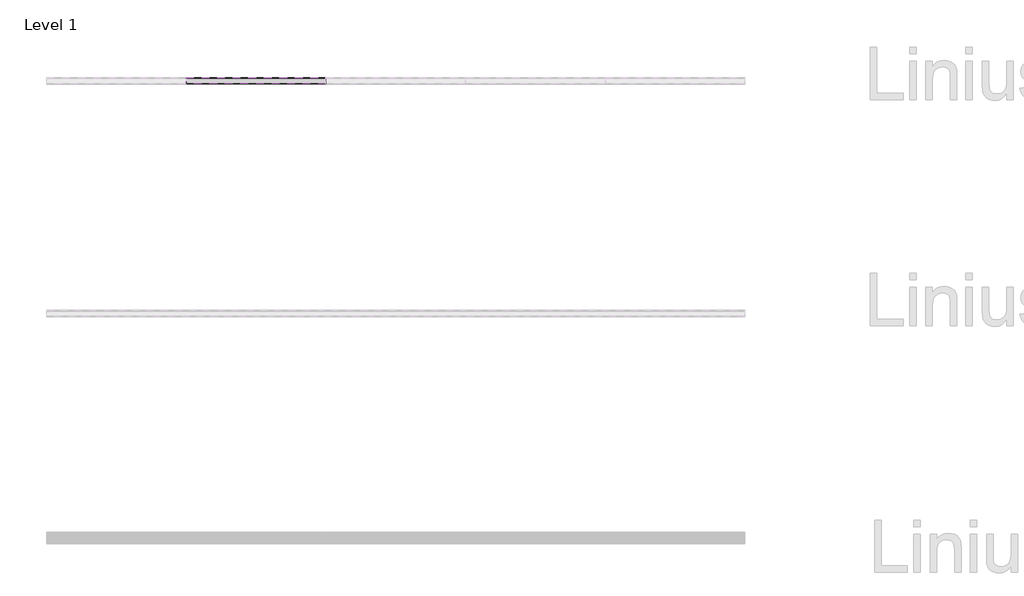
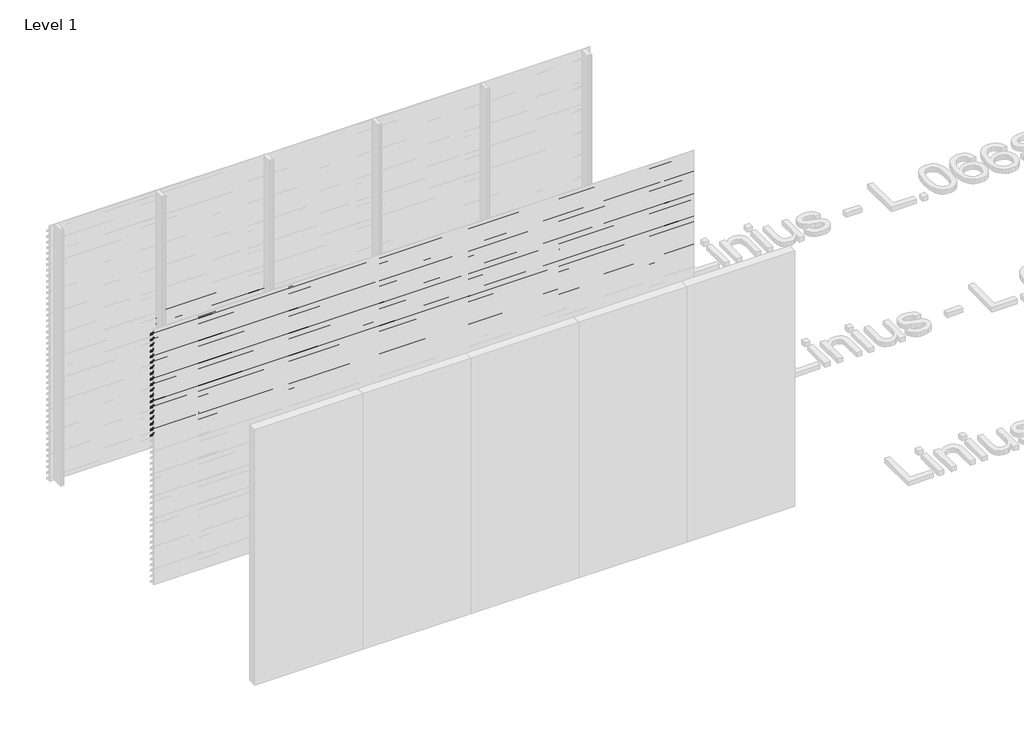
# One storey, part 126 of 540: 43 proxies.
"""IFC4 building model written with IfcOpenShell, lengths in millimetres."""

from ifc_helpers import new_model, si_unit, point, frame, frame_2d, origin, place, context, project, spatial, polyline, circle_curve, trimmed, segment, composite_curve, outline, extrude, element, save

model = new_model("IFC4")

# Units and contexts
model_context = context("Model", 3, world=origin())
ifc_project = project(units=[si_unit("LENGTHUNIT", "METRE", prefix="MILLI")], contexts=[model_context])

# Site, building, storey
site = spatial("IfcSite", under=ifc_project)
building = spatial("IfcBuilding", under=site)
storey = spatial("IfcBuildingStorey", under=building, Name="Level 1", Elevation=0.0)

# Proxies
placement = place(None, origin())
element("IfcBuildingElementProxy", 1, Name="Wall Sweeps", at=placement, inside=storey, context=model_context, shape_type="SweptSolid", body=[
    extrude(outline(composite_curve([segment(trimmed(circle_curve(frame_2d((14013.609548, 1513.7676769)), 26.4944656), [point((14030.5717655, 1534.1205608))], [point((14040.0540136, 1515.3946208))], False, "CARTESIAN"), True, "CONTINUOUS"), segment(polyline([(14040.0540136, 1515.3946208), (14040.0540136, 1507.5), (14038.8040136, 1508.2216933), (14038.8040136, 1513.7676769)]), True, "CONTINUOUS"), segment(trimmed(circle_curve(frame_2d((14013.609548, 1513.7676769)), 25.1944656), [point((14038.8040136, 1513.7676769))], [point((14029.7815085, 1533.086807))], True, "CARTESIAN"), True, "CONTINUOUS"), segment(polyline([(14029.7815085, 1533.086807), (13985.0540136, 1564.3158044), (13985.0540136, 1584.0), (13986.3040136, 1584.0), (13986.3040136, 1565.0285629), (14030.5717655, 1534.1205608)]), True, "CONTINUOUS")], self_intersect=False)), frame((90666.6208099, 0.0, 0.0), z_axis=(1.0, 0.0, 0.0), x_axis=(0.0, 1.0, 0.0)), (0.0, 0.0, 1.0), 1199.9999999),
])
element("IfcBuildingElementProxy", 2, Name="Wall Sweeps", at=placement, inside=storey, context=model_context, shape_type="SweptSolid", body=[
    extrude(outline(composite_curve([segment(trimmed(circle_curve(frame_2d((14013.609548, 1447.7676769)), 26.4944656), [point((14030.5717655, 1468.1205608))], [point((14040.0540136, 1449.3946208))], False, "CARTESIAN"), True, "CONTINUOUS"), segment(polyline([(14040.0540136, 1449.3946208), (14040.0540136, 1441.5), (14038.8040136, 1442.2216933), (14038.8040136, 1447.7676769)]), True, "CONTINUOUS"), segment(trimmed(circle_curve(frame_2d((14013.609548, 1447.7676769)), 25.1944656), [point((14038.8040136, 1447.7676769))], [point((14029.7815085, 1467.086807))], True, "CARTESIAN"), True, "CONTINUOUS"), segment(polyline([(14029.7815085, 1467.086807), (13985.0540136, 1498.3158044), (13985.0540136, 1518.0), (13986.3040136, 1518.0), (13986.3040136, 1499.0285629), (14030.5717655, 1468.1205608)]), True, "CONTINUOUS")], self_intersect=False)), frame((90666.6208099, 0.0, 0.0), z_axis=(1.0, 0.0, 0.0), x_axis=(0.0, 1.0, 0.0)), (0.0, 0.0, 1.0), 1199.9999999),
])
element("IfcBuildingElementProxy", 3, Name="Wall Sweeps", at=placement, inside=storey, context=model_context, shape_type="SweptSolid", body=[
    extrude(outline(composite_curve([segment(trimmed(circle_curve(frame_2d((14013.609548, 1381.7676769)), 26.4944656), [point((14030.5717655, 1402.1205608))], [point((14040.0540136, 1383.3946208))], False, "CARTESIAN"), True, "CONTINUOUS"), segment(polyline([(14040.0540136, 1383.3946208), (14040.0540136, 1375.5), (14038.8040136, 1376.2216933), (14038.8040136, 1381.7676769)]), True, "CONTINUOUS"), segment(trimmed(circle_curve(frame_2d((14013.609548, 1381.7676769)), 25.1944656), [point((14038.8040136, 1381.7676769))], [point((14029.7815085, 1401.086807))], True, "CARTESIAN"), True, "CONTINUOUS"), segment(polyline([(14029.7815085, 1401.086807), (13985.0540136, 1432.3158044), (13985.0540136, 1452.0), (13986.3040136, 1452.0), (13986.3040136, 1433.0285629), (14030.5717655, 1402.1205608)]), True, "CONTINUOUS")], self_intersect=False)), frame((90666.6208099, 0.0, 0.0), z_axis=(1.0, 0.0, 0.0), x_axis=(0.0, 1.0, 0.0)), (0.0, 0.0, 1.0), 1199.9999999),
])
element("IfcBuildingElementProxy", 4, Name="Wall Sweeps", at=placement, inside=storey, context=model_context, shape_type="SweptSolid", body=[
    extrude(outline(composite_curve([segment(trimmed(circle_curve(frame_2d((14013.609548, 1315.7676769)), 26.4944656), [point((14030.5717655, 1336.1205608))], [point((14040.0540136, 1317.3946208))], False, "CARTESIAN"), True, "CONTINUOUS"), segment(polyline([(14040.0540136, 1317.3946208), (14040.0540136, 1309.5), (14038.8040136, 1310.2216933), (14038.8040136, 1315.7676769)]), True, "CONTINUOUS"), segment(trimmed(circle_curve(frame_2d((14013.609548, 1315.7676769)), 25.1944656), [point((14038.8040136, 1315.7676769))], [point((14029.7815085, 1335.086807))], True, "CARTESIAN"), True, "CONTINUOUS"), segment(polyline([(14029.7815085, 1335.086807), (13985.0540136, 1366.3158044), (13985.0540136, 1386.0), (13986.3040136, 1386.0), (13986.3040136, 1367.0285629), (14030.5717655, 1336.1205608)]), True, "CONTINUOUS")], self_intersect=False)), frame((90666.6208099, 0.0, 0.0), z_axis=(1.0, 0.0, 0.0), x_axis=(0.0, 1.0, 0.0)), (0.0, 0.0, 1.0), 1199.9999999),
])
element("IfcBuildingElementProxy", 5, Name="Wall Sweeps", at=placement, inside=storey, context=model_context, shape_type="SweptSolid", body=[
    extrude(outline(composite_curve([segment(trimmed(circle_curve(frame_2d((14013.609548, 1249.7676769)), 26.4944656), [point((14030.5717655, 1270.1205608))], [point((14040.0540136, 1251.3946208))], False, "CARTESIAN"), True, "CONTINUOUS"), segment(polyline([(14040.0540136, 1251.3946208), (14040.0540136, 1243.5), (14038.8040136, 1244.2216933), (14038.8040136, 1249.7676769)]), True, "CONTINUOUS"), segment(trimmed(circle_curve(frame_2d((14013.609548, 1249.7676769)), 25.1944656), [point((14038.8040136, 1249.7676769))], [point((14029.7815085, 1269.086807))], True, "CARTESIAN"), True, "CONTINUOUS"), segment(polyline([(14029.7815085, 1269.086807), (13985.0540136, 1300.3158044), (13985.0540136, 1320.0), (13986.3040136, 1320.0), (13986.3040136, 1301.0285629), (14030.5717655, 1270.1205608)]), True, "CONTINUOUS")], self_intersect=False)), frame((90666.6208099, 0.0, 0.0), z_axis=(1.0, 0.0, 0.0), x_axis=(0.0, 1.0, 0.0)), (0.0, 0.0, 1.0), 1199.9999999),
])
element("IfcBuildingElementProxy", 6, Name="Wall Sweeps", at=placement, inside=storey, context=model_context, shape_type="SweptSolid", body=[
    extrude(outline(composite_curve([segment(trimmed(circle_curve(frame_2d((14013.609548, 1183.7676769)), 26.4944656), [point((14030.5717655, 1204.1205608))], [point((14040.0540136, 1185.3946208))], False, "CARTESIAN"), True, "CONTINUOUS"), segment(polyline([(14040.0540136, 1185.3946208), (14040.0540136, 1177.5), (14038.8040136, 1178.2216933), (14038.8040136, 1183.7676769)]), True, "CONTINUOUS"), segment(trimmed(circle_curve(frame_2d((14013.609548, 1183.7676769)), 25.1944656), [point((14038.8040136, 1183.7676769))], [point((14029.7815085, 1203.086807))], True, "CARTESIAN"), True, "CONTINUOUS"), segment(polyline([(14029.7815085, 1203.086807), (13985.0540136, 1234.3158044), (13985.0540136, 1254.0), (13986.3040136, 1254.0), (13986.3040136, 1235.0285629), (14030.5717655, 1204.1205608)]), True, "CONTINUOUS")], self_intersect=False)), frame((90666.6208099, 0.0, 0.0), z_axis=(1.0, 0.0, 0.0), x_axis=(0.0, 1.0, 0.0)), (0.0, 0.0, 1.0), 1199.9999999),
])
element("IfcBuildingElementProxy", 7, Name="Wall Sweeps", at=placement, inside=storey, context=model_context, shape_type="SweptSolid", body=[
    extrude(outline(composite_curve([segment(trimmed(circle_curve(frame_2d((14013.609548, 1117.7676769)), 26.4944656), [point((14030.5717655, 1138.1205608))], [point((14040.0540136, 1119.3946208))], False, "CARTESIAN"), True, "CONTINUOUS"), segment(polyline([(14040.0540136, 1119.3946208), (14040.0540136, 1111.5), (14038.8040136, 1112.2216933), (14038.8040136, 1117.7676769)]), True, "CONTINUOUS"), segment(trimmed(circle_curve(frame_2d((14013.609548, 1117.7676769)), 25.1944656), [point((14038.8040136, 1117.7676769))], [point((14029.7815085, 1137.086807))], True, "CARTESIAN"), True, "CONTINUOUS"), segment(polyline([(14029.7815085, 1137.086807), (13985.0540136, 1168.3158044), (13985.0540136, 1188.0), (13986.3040136, 1188.0), (13986.3040136, 1169.0285629), (14030.5717655, 1138.1205608)]), True, "CONTINUOUS")], self_intersect=False)), frame((90666.6208099, 0.0, 0.0), z_axis=(1.0, 0.0, 0.0), x_axis=(0.0, 1.0, 0.0)), (0.0, 0.0, 1.0), 1199.9999999),
])
element("IfcBuildingElementProxy", 8, Name="Wall Sweeps", at=placement, inside=storey, context=model_context, shape_type="SweptSolid", body=[
    extrude(outline(composite_curve([segment(trimmed(circle_curve(frame_2d((14013.609548, 1051.7676769)), 26.4944656), [point((14030.5717655, 1072.1205608))], [point((14040.0540136, 1053.3946208))], False, "CARTESIAN"), True, "CONTINUOUS"), segment(polyline([(14040.0540136, 1053.3946208), (14040.0540136, 1045.5), (14038.8040136, 1046.2216933), (14038.8040136, 1051.7676769)]), True, "CONTINUOUS"), segment(trimmed(circle_curve(frame_2d((14013.609548, 1051.7676769)), 25.1944656), [point((14038.8040136, 1051.7676769))], [point((14029.7815085, 1071.086807))], True, "CARTESIAN"), True, "CONTINUOUS"), segment(polyline([(14029.7815085, 1071.086807), (13985.0540136, 1102.3158044), (13985.0540136, 1122.0), (13986.3040136, 1122.0), (13986.3040136, 1103.0285629), (14030.5717655, 1072.1205608)]), True, "CONTINUOUS")], self_intersect=False)), frame((90666.6208099, 0.0, 0.0), z_axis=(1.0, 0.0, 0.0), x_axis=(0.0, 1.0, 0.0)), (0.0, 0.0, 1.0), 1199.9999999),
])
element("IfcBuildingElementProxy", 9, Name="Wall Sweeps", at=placement, inside=storey, context=model_context, shape_type="SweptSolid", body=[
    extrude(outline(composite_curve([segment(trimmed(circle_curve(frame_2d((14013.609548, 985.7676769)), 26.4944656), [point((14030.5717655, 1006.1205608))], [point((14040.0540136, 987.3946208))], False, "CARTESIAN"), True, "CONTINUOUS"), segment(polyline([(14040.0540136, 987.3946208), (14040.0540136, 979.5), (14038.8040136, 980.2216933), (14038.8040136, 985.7676769)]), True, "CONTINUOUS"), segment(trimmed(circle_curve(frame_2d((14013.609548, 985.7676769)), 25.1944656), [point((14038.8040136, 985.7676769))], [point((14029.7815085, 1005.086807))], True, "CARTESIAN"), True, "CONTINUOUS"), segment(polyline([(14029.7815085, 1005.086807), (13985.0540136, 1036.3158044), (13985.0540136, 1056.0), (13986.3040136, 1056.0), (13986.3040136, 1037.0285629), (14030.5717655, 1006.1205608)]), True, "CONTINUOUS")], self_intersect=False)), frame((90666.6208099, 0.0, 0.0), z_axis=(1.0, 0.0, 0.0), x_axis=(0.0, 1.0, 0.0)), (0.0, 0.0, 1.0), 1199.9999999),
])
element("IfcBuildingElementProxy", 10, Name="Wall Sweeps", at=placement, inside=storey, context=model_context, shape_type="SweptSolid", body=[
    extrude(outline(composite_curve([segment(trimmed(circle_curve(frame_2d((14013.609548, 919.7676769)), 26.4944656), [point((14030.5717655, 940.1205608))], [point((14040.0540136, 921.3946208))], False, "CARTESIAN"), True, "CONTINUOUS"), segment(polyline([(14040.0540136, 921.3946208), (14040.0540136, 913.5), (14038.8040136, 914.2216933), (14038.8040136, 919.7676769)]), True, "CONTINUOUS"), segment(trimmed(circle_curve(frame_2d((14013.609548, 919.7676769)), 25.1944656), [point((14038.8040136, 919.7676769))], [point((14029.7815085, 939.086807))], True, "CARTESIAN"), True, "CONTINUOUS"), segment(polyline([(14029.7815085, 939.086807), (13985.0540136, 970.3158044), (13985.0540136, 990.0), (13986.3040136, 990.0), (13986.3040136, 971.0285629), (14030.5717655, 940.1205608)]), True, "CONTINUOUS")], self_intersect=False)), frame((90666.6208099, 0.0, 0.0), z_axis=(1.0, 0.0, 0.0), x_axis=(0.0, 1.0, 0.0)), (0.0, 0.0, 1.0), 1199.9999999),
])
element("IfcBuildingElementProxy", 11, Name="Wall Sweeps", at=placement, inside=storey, context=model_context, shape_type="SweptSolid", body=[
    extrude(outline(composite_curve([segment(trimmed(circle_curve(frame_2d((14013.609548, 853.7676769)), 26.4944656), [point((14030.5717655, 874.1205608))], [point((14040.0540136, 855.3946208))], False, "CARTESIAN"), True, "CONTINUOUS"), segment(polyline([(14040.0540136, 855.3946208), (14040.0540136, 847.5), (14038.8040136, 848.2216933), (14038.8040136, 853.7676769)]), True, "CONTINUOUS"), segment(trimmed(circle_curve(frame_2d((14013.609548, 853.7676769)), 25.1944656), [point((14038.8040136, 853.7676769))], [point((14029.7815085, 873.086807))], True, "CARTESIAN"), True, "CONTINUOUS"), segment(polyline([(14029.7815085, 873.086807), (13985.0540136, 904.3158044), (13985.0540136, 924.0), (13986.3040136, 924.0), (13986.3040136, 905.0285629), (14030.5717655, 874.1205608)]), True, "CONTINUOUS")], self_intersect=False)), frame((90666.6208099, 0.0, 0.0), z_axis=(1.0, 0.0, 0.0), x_axis=(0.0, 1.0, 0.0)), (0.0, 0.0, 1.0), 1199.9999999),
])
element("IfcBuildingElementProxy", 12, Name="Wall Sweeps", at=placement, inside=storey, context=model_context, shape_type="SweptSolid", body=[
    extrude(outline(composite_curve([segment(trimmed(circle_curve(frame_2d((14013.609548, 787.7676769)), 26.4944656), [point((14030.5717655, 808.1205608))], [point((14040.0540136, 789.3946208))], False, "CARTESIAN"), True, "CONTINUOUS"), segment(polyline([(14040.0540136, 789.3946208), (14040.0540136, 781.5), (14038.8040136, 782.2216933), (14038.8040136, 787.7676769)]), True, "CONTINUOUS"), segment(trimmed(circle_curve(frame_2d((14013.609548, 787.7676769)), 25.1944656), [point((14038.8040136, 787.7676769))], [point((14029.7815085, 807.086807))], True, "CARTESIAN"), True, "CONTINUOUS"), segment(polyline([(14029.7815085, 807.086807), (13985.0540136, 838.3158044), (13985.0540136, 858.0), (13986.3040136, 858.0), (13986.3040136, 839.0285629), (14030.5717655, 808.1205608)]), True, "CONTINUOUS")], self_intersect=False)), frame((90666.6208099, 0.0, 0.0), z_axis=(1.0, 0.0, 0.0), x_axis=(0.0, 1.0, 0.0)), (0.0, 0.0, 1.0), 1199.9999999),
])
element("IfcBuildingElementProxy", 13, Name="Wall Sweeps", at=placement, inside=storey, context=model_context, shape_type="SweptSolid", body=[
    extrude(outline(composite_curve([segment(trimmed(circle_curve(frame_2d((14013.609548, 721.7676769)), 26.4944656), [point((14030.5717655, 742.1205608))], [point((14040.0540136, 723.3946208))], False, "CARTESIAN"), True, "CONTINUOUS"), segment(polyline([(14040.0540136, 723.3946208), (14040.0540136, 715.5), (14038.8040136, 716.2216933), (14038.8040136, 721.7676769)]), True, "CONTINUOUS"), segment(trimmed(circle_curve(frame_2d((14013.609548, 721.7676769)), 25.1944656), [point((14038.8040136, 721.7676769))], [point((14029.7815085, 741.086807))], True, "CARTESIAN"), True, "CONTINUOUS"), segment(polyline([(14029.7815085, 741.086807), (13985.0540136, 772.3158044), (13985.0540136, 792.0), (13986.3040136, 792.0), (13986.3040136, 773.0285629), (14030.5717655, 742.1205608)]), True, "CONTINUOUS")], self_intersect=False)), frame((90666.6208099, 0.0, 0.0), z_axis=(1.0, 0.0, 0.0), x_axis=(0.0, 1.0, 0.0)), (0.0, 0.0, 1.0), 1199.9999999),
])
element("IfcBuildingElementProxy", 14, Name="Wall Sweeps", at=placement, inside=storey, context=model_context, shape_type="SweptSolid", body=[
    extrude(outline(composite_curve([segment(trimmed(circle_curve(frame_2d((14013.609548, 655.7676769)), 26.4944656), [point((14030.5717655, 676.1205608))], [point((14040.0540136, 657.3946208))], False, "CARTESIAN"), True, "CONTINUOUS"), segment(polyline([(14040.0540136, 657.3946208), (14040.0540136, 649.5), (14038.8040136, 650.2216933), (14038.8040136, 655.7676769)]), True, "CONTINUOUS"), segment(trimmed(circle_curve(frame_2d((14013.609548, 655.7676769)), 25.1944656), [point((14038.8040136, 655.7676769))], [point((14029.7815085, 675.086807))], True, "CARTESIAN"), True, "CONTINUOUS"), segment(polyline([(14029.7815085, 675.086807), (13985.0540136, 706.3158044), (13985.0540136, 726.0), (13986.3040136, 726.0), (13986.3040136, 707.0285629), (14030.5717655, 676.1205608)]), True, "CONTINUOUS")], self_intersect=False)), frame((90666.6208099, 0.0, 0.0), z_axis=(1.0, 0.0, 0.0), x_axis=(0.0, 1.0, 0.0)), (0.0, 0.0, 1.0), 1199.9999999),
])
element("IfcBuildingElementProxy", 15, Name="Wall Sweeps", at=placement, inside=storey, context=model_context, shape_type="SweptSolid", body=[
    extrude(outline(composite_curve([segment(trimmed(circle_curve(frame_2d((14013.609548, 589.7676769)), 26.4944656), [point((14030.5717655, 610.1205608))], [point((14040.0540136, 591.3946208))], False, "CARTESIAN"), True, "CONTINUOUS"), segment(polyline([(14040.0540136, 591.3946208), (14040.0540136, 583.5), (14038.8040136, 584.2216933), (14038.8040136, 589.7676769)]), True, "CONTINUOUS"), segment(trimmed(circle_curve(frame_2d((14013.609548, 589.7676769)), 25.1944656), [point((14038.8040136, 589.7676769))], [point((14029.7815085, 609.086807))], True, "CARTESIAN"), True, "CONTINUOUS"), segment(polyline([(14029.7815085, 609.086807), (13985.0540136, 640.3158044), (13985.0540136, 660.0), (13986.3040136, 660.0), (13986.3040136, 641.0285629), (14030.5717655, 610.1205608)]), True, "CONTINUOUS")], self_intersect=False)), frame((90666.6208099, 0.0, 0.0), z_axis=(1.0, 0.0, 0.0), x_axis=(0.0, 1.0, 0.0)), (0.0, 0.0, 1.0), 1199.9999999),
])
element("IfcBuildingElementProxy", 16, Name="Wall Sweeps", at=placement, inside=storey, context=model_context, shape_type="SweptSolid", body=[
    extrude(outline(composite_curve([segment(trimmed(circle_curve(frame_2d((14013.609548, 523.7676769)), 26.4944656), [point((14030.5717655, 544.1205608))], [point((14040.0540136, 525.3946208))], False, "CARTESIAN"), True, "CONTINUOUS"), segment(polyline([(14040.0540136, 525.3946208), (14040.0540136, 517.5), (14038.8040136, 518.2216933), (14038.8040136, 523.7676769)]), True, "CONTINUOUS"), segment(trimmed(circle_curve(frame_2d((14013.609548, 523.7676769)), 25.1944656), [point((14038.8040136, 523.7676769))], [point((14029.7815085, 543.086807))], True, "CARTESIAN"), True, "CONTINUOUS"), segment(polyline([(14029.7815085, 543.086807), (13985.0540136, 574.3158044), (13985.0540136, 594.0), (13986.3040136, 594.0), (13986.3040136, 575.0285629), (14030.5717655, 544.1205608)]), True, "CONTINUOUS")], self_intersect=False)), frame((90666.6208099, 0.0, 0.0), z_axis=(1.0, 0.0, 0.0), x_axis=(0.0, 1.0, 0.0)), (0.0, 0.0, 1.0), 1199.9999999),
])
element("IfcBuildingElementProxy", 17, Name="Wall Sweeps", at=placement, inside=storey, context=model_context, shape_type="SweptSolid", body=[
    extrude(outline(composite_curve([segment(trimmed(circle_curve(frame_2d((14013.609548, 457.7676769)), 26.4944656), [point((14030.5717655, 478.1205608))], [point((14040.0540136, 459.3946208))], False, "CARTESIAN"), True, "CONTINUOUS"), segment(polyline([(14040.0540136, 459.3946208), (14040.0540136, 451.5), (14038.8040136, 452.2216933), (14038.8040136, 457.7676769)]), True, "CONTINUOUS"), segment(trimmed(circle_curve(frame_2d((14013.609548, 457.7676769)), 25.1944656), [point((14038.8040136, 457.7676769))], [point((14029.7815085, 477.086807))], True, "CARTESIAN"), True, "CONTINUOUS"), segment(polyline([(14029.7815085, 477.086807), (13985.0540136, 508.3158044), (13985.0540136, 528.0), (13986.3040136, 528.0), (13986.3040136, 509.0285629), (14030.5717655, 478.1205608)]), True, "CONTINUOUS")], self_intersect=False)), frame((90666.6208099, 0.0, 0.0), z_axis=(1.0, 0.0, 0.0), x_axis=(0.0, 1.0, 0.0)), (0.0, 0.0, 1.0), 1199.9999999),
])
element("IfcBuildingElementProxy", 18, Name="Wall Sweeps", at=placement, inside=storey, context=model_context, shape_type="SweptSolid", body=[
    extrude(outline(composite_curve([segment(trimmed(circle_curve(frame_2d((14013.609548, 391.7676769)), 26.4944656), [point((14030.5717655, 412.1205608))], [point((14040.0540136, 393.3946208))], False, "CARTESIAN"), True, "CONTINUOUS"), segment(polyline([(14040.0540136, 393.3946208), (14040.0540136, 385.5), (14038.8040136, 386.2216933), (14038.8040136, 391.7676769)]), True, "CONTINUOUS"), segment(trimmed(circle_curve(frame_2d((14013.609548, 391.7676769)), 25.1944656), [point((14038.8040136, 391.7676769))], [point((14029.7815085, 411.086807))], True, "CARTESIAN"), True, "CONTINUOUS"), segment(polyline([(14029.7815085, 411.086807), (13985.0540136, 442.3158044), (13985.0540136, 462.0), (13986.3040136, 462.0), (13986.3040136, 443.0285629), (14030.5717655, 412.1205608)]), True, "CONTINUOUS")], self_intersect=False)), frame((90666.6208099, 0.0, 0.0), z_axis=(1.0, 0.0, 0.0), x_axis=(0.0, 1.0, 0.0)), (0.0, 0.0, 1.0), 1199.9999999),
])
element("IfcBuildingElementProxy", 19, Name="Wall Sweeps", at=placement, inside=storey, context=model_context, shape_type="SweptSolid", body=[
    extrude(outline(composite_curve([segment(trimmed(circle_curve(frame_2d((14013.609548, 325.7676769)), 26.4944656), [point((14030.5717655, 346.1205608))], [point((14040.0540136, 327.3946208))], False, "CARTESIAN"), True, "CONTINUOUS"), segment(polyline([(14040.0540136, 327.3946208), (14040.0540136, 319.5), (14038.8040136, 320.2216933), (14038.8040136, 325.7676769)]), True, "CONTINUOUS"), segment(trimmed(circle_curve(frame_2d((14013.609548, 325.7676769)), 25.1944656), [point((14038.8040136, 325.7676769))], [point((14029.7815085, 345.086807))], True, "CARTESIAN"), True, "CONTINUOUS"), segment(polyline([(14029.7815085, 345.086807), (13985.0540136, 376.3158044), (13985.0540136, 396.0), (13986.3040136, 396.0), (13986.3040136, 377.0285629), (14030.5717655, 346.1205608)]), True, "CONTINUOUS")], self_intersect=False)), frame((90666.6208099, 0.0, 0.0), z_axis=(1.0, 0.0, 0.0), x_axis=(0.0, 1.0, 0.0)), (0.0, 0.0, 1.0), 1199.9999999),
])
element("IfcBuildingElementProxy", 20, Name="Wall Sweeps", at=placement, inside=storey, context=model_context, shape_type="SweptSolid", body=[
    extrude(outline(composite_curve([segment(trimmed(circle_curve(frame_2d((14013.609548, 259.7676769)), 26.4944656), [point((14030.5717655, 280.1205608))], [point((14040.0540136, 261.3946208))], False, "CARTESIAN"), True, "CONTINUOUS"), segment(polyline([(14040.0540136, 261.3946208), (14040.0540136, 253.5), (14038.8040136, 254.2216933), (14038.8040136, 259.7676769)]), True, "CONTINUOUS"), segment(trimmed(circle_curve(frame_2d((14013.609548, 259.7676769)), 25.1944656), [point((14038.8040136, 259.7676769))], [point((14029.7815085, 279.086807))], True, "CARTESIAN"), True, "CONTINUOUS"), segment(polyline([(14029.7815085, 279.086807), (13985.0540136, 310.3158044), (13985.0540136, 330.0), (13986.3040136, 330.0), (13986.3040136, 311.0285629), (14030.5717655, 280.1205608)]), True, "CONTINUOUS")], self_intersect=False)), frame((90666.6208099, 0.0, 0.0), z_axis=(1.0, 0.0, 0.0), x_axis=(0.0, 1.0, 0.0)), (0.0, 0.0, 1.0), 1199.9999999),
])
element("IfcBuildingElementProxy", 21, Name="Wall Sweeps", at=placement, inside=storey, context=model_context, shape_type="SweptSolid", body=[
    extrude(outline(composite_curve([segment(trimmed(circle_curve(frame_2d((14013.609548, 193.7676769)), 26.4944656), [point((14030.5717655, 214.1205608))], [point((14040.0540136, 195.3946208))], False, "CARTESIAN"), True, "CONTINUOUS"), segment(polyline([(14040.0540136, 195.3946208), (14040.0540136, 187.5), (14038.8040136, 188.2216933), (14038.8040136, 193.7676769)]), True, "CONTINUOUS"), segment(trimmed(circle_curve(frame_2d((14013.609548, 193.7676769)), 25.1944656), [point((14038.8040136, 193.7676769))], [point((14029.7815085, 213.086807))], True, "CARTESIAN"), True, "CONTINUOUS"), segment(polyline([(14029.7815085, 213.086807), (13985.0540136, 244.3158044), (13985.0540136, 264.0), (13986.3040136, 264.0), (13986.3040136, 245.0285629), (14030.5717655, 214.1205608)]), True, "CONTINUOUS")], self_intersect=False)), frame((90666.6208099, 0.0, 0.0), z_axis=(1.0, 0.0, 0.0), x_axis=(0.0, 1.0, 0.0)), (0.0, 0.0, 1.0), 1199.9999999),
])
element("IfcBuildingElementProxy", 22, Name="Wall Sweeps", at=placement, inside=storey, context=model_context, shape_type="SweptSolid", body=[
    extrude(outline(composite_curve([segment(trimmed(circle_curve(frame_2d((14013.609548, 127.7676769)), 26.4944656), [point((14030.5717655, 148.1205608))], [point((14040.0540136, 129.3946208))], False, "CARTESIAN"), True, "CONTINUOUS"), segment(polyline([(14040.0540136, 129.3946208), (14040.0540136, 121.5), (14038.8040136, 122.2216933), (14038.8040136, 127.7676769)]), True, "CONTINUOUS"), segment(trimmed(circle_curve(frame_2d((14013.609548, 127.7676769)), 25.1944656), [point((14038.8040136, 127.7676769))], [point((14029.7815085, 147.086807))], True, "CARTESIAN"), True, "CONTINUOUS"), segment(polyline([(14029.7815085, 147.086807), (13985.0540136, 178.3158044), (13985.0540136, 198.0), (13986.3040136, 198.0), (13986.3040136, 179.0285629), (14030.5717655, 148.1205608)]), True, "CONTINUOUS")], self_intersect=False)), frame((90666.6208099, 0.0, 0.0), z_axis=(1.0, 0.0, 0.0), x_axis=(0.0, 1.0, 0.0)), (0.0, 0.0, 1.0), 1199.9999999),
])
element("IfcBuildingElementProxy", 23, Name="Wall Sweeps", at=placement, inside=storey, context=model_context, shape_type="SweptSolid", body=[
    extrude(outline(composite_curve([segment(trimmed(circle_curve(frame_2d((14013.609548, 61.7676769)), 26.4944656), [point((14030.5717655, 82.1205608))], [point((14040.0540136, 63.3946208))], False, "CARTESIAN"), True, "CONTINUOUS"), segment(polyline([(14040.0540136, 63.3946208), (14040.0540136, 55.5), (14038.8040136, 56.2216933), (14038.8040136, 61.7676769)]), True, "CONTINUOUS"), segment(trimmed(circle_curve(frame_2d((14013.609548, 61.7676769)), 25.1944656), [point((14038.8040136, 61.7676769))], [point((14029.7815085, 81.086807))], True, "CARTESIAN"), True, "CONTINUOUS"), segment(polyline([(14029.7815085, 81.086807), (13985.0540136, 112.3158044), (13985.0540136, 132.0), (13986.3040136, 132.0), (13986.3040136, 113.0285629), (14030.5717655, 82.1205608)]), True, "CONTINUOUS")], self_intersect=False)), frame((90666.6208099, 0.0, 0.0), z_axis=(1.0, 0.0, 0.0), x_axis=(0.0, 1.0, 0.0)), (0.0, 0.0, 1.0), 1199.9999999),
])
element("IfcBuildingElementProxy", 24, Name="Wall Sweeps", at=placement, inside=storey, context=model_context, shape_type="SweptSolid", body=[
    extrude(outline(composite_curve([segment(trimmed(circle_curve(frame_2d((14013.609548, -4.2323231)), 26.4944656), [point((14030.5717655, 16.1205608))], [point((14040.0540136, -2.6053792))], False, "CARTESIAN"), True, "CONTINUOUS"), segment(polyline([(14040.0540136, -2.6053792), (14040.0540136, -10.5), (14038.8040136, -9.7783067), (14038.8040136, -4.2323231)]), True, "CONTINUOUS"), segment(trimmed(circle_curve(frame_2d((14013.609548, -4.2323231)), 25.1944656), [point((14038.8040136, -4.2323231))], [point((14029.7815085, 15.086807))], True, "CARTESIAN"), True, "CONTINUOUS"), segment(polyline([(14029.7815085, 15.086807), (13985.0540136, 46.3158044), (13985.0540136, 66.0), (13986.3040136, 66.0), (13986.3040136, 47.0285629), (14030.5717655, 16.1205608)]), True, "CONTINUOUS")], self_intersect=False)), frame((90666.6208099, 0.0, 0.0), z_axis=(1.0, 0.0, 0.0), x_axis=(0.0, 1.0, 0.0)), (0.0, 0.0, 1.0), 1199.9999999),
])
element("IfcBuildingElementProxy", 25, Name="Wall Sweeps", at=placement, inside=storey, context=model_context, shape_type="SweptSolid", body=[
    extrude(outline(composite_curve([segment(trimmed(circle_curve(frame_2d((12013.609548, 2899.7676769)), 26.4944656), [point((12030.5717655, 2920.1205608))], [point((12040.0540136, 2901.3946208))], False, "CARTESIAN"), True, "CONTINUOUS"), segment(polyline([(12040.0540136, 2901.3946208), (12040.0540136, 2893.5), (12038.8040136, 2894.2216933), (12038.8040136, 2899.7676769)]), True, "CONTINUOUS"), segment(trimmed(circle_curve(frame_2d((12013.609548, 2899.7676769)), 25.1944656), [point((12038.8040136, 2899.7676769))], [point((12029.7815085, 2919.086807))], True, "CARTESIAN"), True, "CONTINUOUS"), segment(polyline([(12029.7815085, 2919.086807), (11985.0540136, 2950.3158044), (11985.0540136, 2970.0), (11986.3040136, 2970.0), (11986.3040136, 2951.0285629), (12030.5717655, 2920.1205608)]), True, "CONTINUOUS")], self_intersect=False)), frame((89466.6208097, 0.0, 0.0), z_axis=(1.0, 0.0, 0.0), x_axis=(0.0, 1.0, 0.0)), (0.0, 0.0, 1.0), 6000.0),
])
element("IfcBuildingElementProxy", 26, Name="Wall Sweeps", at=placement, inside=storey, context=model_context, shape_type="SweptSolid", body=[
    extrude(outline(composite_curve([segment(trimmed(circle_curve(frame_2d((12013.609548, 2833.7676769)), 26.4944656), [point((12030.5717655, 2854.1205608))], [point((12040.0540136, 2835.3946208))], False, "CARTESIAN"), True, "CONTINUOUS"), segment(polyline([(12040.0540136, 2835.3946208), (12040.0540136, 2827.5), (12038.8040136, 2828.2216933), (12038.8040136, 2833.7676769)]), True, "CONTINUOUS"), segment(trimmed(circle_curve(frame_2d((12013.609548, 2833.7676769)), 25.1944656), [point((12038.8040136, 2833.7676769))], [point((12029.7815085, 2853.086807))], True, "CARTESIAN"), True, "CONTINUOUS"), segment(polyline([(12029.7815085, 2853.086807), (11985.0540136, 2884.3158044), (11985.0540136, 2904.0), (11986.3040136, 2904.0), (11986.3040136, 2885.0285629), (12030.5717655, 2854.1205608)]), True, "CONTINUOUS")], self_intersect=False)), frame((89466.6208097, 0.0, 0.0), z_axis=(1.0, 0.0, 0.0), x_axis=(0.0, 1.0, 0.0)), (0.0, 0.0, 1.0), 6000.0),
])
element("IfcBuildingElementProxy", 27, Name="Wall Sweeps", at=placement, inside=storey, context=model_context, shape_type="SweptSolid", body=[
    extrude(outline(composite_curve([segment(trimmed(circle_curve(frame_2d((12013.609548, 2767.7676769)), 26.4944656), [point((12030.5717655, 2788.1205608))], [point((12040.0540136, 2769.3946208))], False, "CARTESIAN"), True, "CONTINUOUS"), segment(polyline([(12040.0540136, 2769.3946208), (12040.0540136, 2761.5), (12038.8040136, 2762.2216933), (12038.8040136, 2767.7676769)]), True, "CONTINUOUS"), segment(trimmed(circle_curve(frame_2d((12013.609548, 2767.7676769)), 25.1944656), [point((12038.8040136, 2767.7676769))], [point((12029.7815085, 2787.086807))], True, "CARTESIAN"), True, "CONTINUOUS"), segment(polyline([(12029.7815085, 2787.086807), (11985.0540136, 2818.3158044), (11985.0540136, 2838.0), (11986.3040136, 2838.0), (11986.3040136, 2819.0285629), (12030.5717655, 2788.1205608)]), True, "CONTINUOUS")], self_intersect=False)), frame((89466.6208097, 0.0, 0.0), z_axis=(1.0, 0.0, 0.0), x_axis=(0.0, 1.0, 0.0)), (0.0, 0.0, 1.0), 6000.0),
])
element("IfcBuildingElementProxy", 28, Name="Wall Sweeps", at=placement, inside=storey, context=model_context, shape_type="SweptSolid", body=[
    extrude(outline(composite_curve([segment(trimmed(circle_curve(frame_2d((12013.609548, 2701.7676769)), 26.4944656), [point((12030.5717655, 2722.1205608))], [point((12040.0540136, 2703.3946208))], False, "CARTESIAN"), True, "CONTINUOUS"), segment(polyline([(12040.0540136, 2703.3946208), (12040.0540136, 2695.5), (12038.8040136, 2696.2216933), (12038.8040136, 2701.7676769)]), True, "CONTINUOUS"), segment(trimmed(circle_curve(frame_2d((12013.609548, 2701.7676769)), 25.1944656), [point((12038.8040136, 2701.7676769))], [point((12029.7815085, 2721.086807))], True, "CARTESIAN"), True, "CONTINUOUS"), segment(polyline([(12029.7815085, 2721.086807), (11985.0540136, 2752.3158044), (11985.0540136, 2772.0), (11986.3040136, 2772.0), (11986.3040136, 2753.0285629), (12030.5717655, 2722.1205608)]), True, "CONTINUOUS")], self_intersect=False)), frame((89466.6208097, 0.0, 0.0), z_axis=(1.0, 0.0, 0.0), x_axis=(0.0, 1.0, 0.0)), (0.0, 0.0, 1.0), 6000.0),
])
element("IfcBuildingElementProxy", 29, Name="Wall Sweeps", at=placement, inside=storey, context=model_context, shape_type="SweptSolid", body=[
    extrude(outline(composite_curve([segment(trimmed(circle_curve(frame_2d((12013.609548, 2635.7676769)), 26.4944656), [point((12030.5717655, 2656.1205608))], [point((12040.0540136, 2637.3946208))], False, "CARTESIAN"), True, "CONTINUOUS"), segment(polyline([(12040.0540136, 2637.3946208), (12040.0540136, 2629.5), (12038.8040136, 2630.2216933), (12038.8040136, 2635.7676769)]), True, "CONTINUOUS"), segment(trimmed(circle_curve(frame_2d((12013.609548, 2635.7676769)), 25.1944656), [point((12038.8040136, 2635.7676769))], [point((12029.7815085, 2655.086807))], True, "CARTESIAN"), True, "CONTINUOUS"), segment(polyline([(12029.7815085, 2655.086807), (11985.0540136, 2686.3158044), (11985.0540136, 2706.0), (11986.3040136, 2706.0), (11986.3040136, 2687.0285629), (12030.5717655, 2656.1205608)]), True, "CONTINUOUS")], self_intersect=False)), frame((89466.6208097, 0.0, 0.0), z_axis=(1.0, 0.0, 0.0), x_axis=(0.0, 1.0, 0.0)), (0.0, 0.0, 1.0), 6000.0),
])
element("IfcBuildingElementProxy", 30, Name="Wall Sweeps", at=placement, inside=storey, context=model_context, shape_type="SweptSolid", body=[
    extrude(outline(composite_curve([segment(trimmed(circle_curve(frame_2d((12013.609548, 2569.7676769)), 26.4944656), [point((12030.5717655, 2590.1205608))], [point((12040.0540136, 2571.3946208))], False, "CARTESIAN"), True, "CONTINUOUS"), segment(polyline([(12040.0540136, 2571.3946208), (12040.0540136, 2563.5), (12038.8040136, 2564.2216933), (12038.8040136, 2569.7676769)]), True, "CONTINUOUS"), segment(trimmed(circle_curve(frame_2d((12013.609548, 2569.7676769)), 25.1944656), [point((12038.8040136, 2569.7676769))], [point((12029.7815085, 2589.086807))], True, "CARTESIAN"), True, "CONTINUOUS"), segment(polyline([(12029.7815085, 2589.086807), (11985.0540136, 2620.3158044), (11985.0540136, 2640.0), (11986.3040136, 2640.0), (11986.3040136, 2621.0285629), (12030.5717655, 2590.1205608)]), True, "CONTINUOUS")], self_intersect=False)), frame((89466.6208097, 0.0, 0.0), z_axis=(1.0, 0.0, 0.0), x_axis=(0.0, 1.0, 0.0)), (0.0, 0.0, 1.0), 6000.0),
])
element("IfcBuildingElementProxy", 31, Name="Wall Sweeps", at=placement, inside=storey, context=model_context, shape_type="SweptSolid", body=[
    extrude(outline(composite_curve([segment(trimmed(circle_curve(frame_2d((12013.609548, 2503.7676769)), 26.4944656), [point((12030.5717655, 2524.1205608))], [point((12040.0540136, 2505.3946208))], False, "CARTESIAN"), True, "CONTINUOUS"), segment(polyline([(12040.0540136, 2505.3946208), (12040.0540136, 2497.5), (12038.8040136, 2498.2216933), (12038.8040136, 2503.7676769)]), True, "CONTINUOUS"), segment(trimmed(circle_curve(frame_2d((12013.609548, 2503.7676769)), 25.1944656), [point((12038.8040136, 2503.7676769))], [point((12029.7815085, 2523.086807))], True, "CARTESIAN"), True, "CONTINUOUS"), segment(polyline([(12029.7815085, 2523.086807), (11985.0540136, 2554.3158044), (11985.0540136, 2574.0), (11986.3040136, 2574.0), (11986.3040136, 2555.0285629), (12030.5717655, 2524.1205608)]), True, "CONTINUOUS")], self_intersect=False)), frame((89466.6208097, 0.0, 0.0), z_axis=(1.0, 0.0, 0.0), x_axis=(0.0, 1.0, 0.0)), (0.0, 0.0, 1.0), 6000.0),
])
element("IfcBuildingElementProxy", 32, Name="Wall Sweeps", at=placement, inside=storey, context=model_context, shape_type="SweptSolid", body=[
    extrude(outline(composite_curve([segment(trimmed(circle_curve(frame_2d((12013.609548, 2437.7676769)), 26.4944656), [point((12030.5717655, 2458.1205608))], [point((12040.0540136, 2439.3946208))], False, "CARTESIAN"), True, "CONTINUOUS"), segment(polyline([(12040.0540136, 2439.3946208), (12040.0540136, 2431.5), (12038.8040136, 2432.2216933), (12038.8040136, 2437.7676769)]), True, "CONTINUOUS"), segment(trimmed(circle_curve(frame_2d((12013.609548, 2437.7676769)), 25.1944656), [point((12038.8040136, 2437.7676769))], [point((12029.7815085, 2457.086807))], True, "CARTESIAN"), True, "CONTINUOUS"), segment(polyline([(12029.7815085, 2457.086807), (11985.0540136, 2488.3158044), (11985.0540136, 2508.0), (11986.3040136, 2508.0), (11986.3040136, 2489.0285629), (12030.5717655, 2458.1205608)]), True, "CONTINUOUS")], self_intersect=False)), frame((89466.6208097, 0.0, 0.0), z_axis=(1.0, 0.0, 0.0), x_axis=(0.0, 1.0, 0.0)), (0.0, 0.0, 1.0), 6000.0),
])
element("IfcBuildingElementProxy", 33, Name="Wall Sweeps", at=placement, inside=storey, context=model_context, shape_type="SweptSolid", body=[
    extrude(outline(composite_curve([segment(trimmed(circle_curve(frame_2d((12013.609548, 2371.7676769)), 26.4944656), [point((12030.5717655, 2392.1205608))], [point((12040.0540136, 2373.3946208))], False, "CARTESIAN"), True, "CONTINUOUS"), segment(polyline([(12040.0540136, 2373.3946208), (12040.0540136, 2365.5), (12038.8040136, 2366.2216933), (12038.8040136, 2371.7676769)]), True, "CONTINUOUS"), segment(trimmed(circle_curve(frame_2d((12013.609548, 2371.7676769)), 25.1944656), [point((12038.8040136, 2371.7676769))], [point((12029.7815085, 2391.086807))], True, "CARTESIAN"), True, "CONTINUOUS"), segment(polyline([(12029.7815085, 2391.086807), (11985.0540136, 2422.3158044), (11985.0540136, 2442.0), (11986.3040136, 2442.0), (11986.3040136, 2423.0285629), (12030.5717655, 2392.1205608)]), True, "CONTINUOUS")], self_intersect=False)), frame((89466.6208097, 0.0, 0.0), z_axis=(1.0, 0.0, 0.0), x_axis=(0.0, 1.0, 0.0)), (0.0, 0.0, 1.0), 6000.0),
])
element("IfcBuildingElementProxy", 34, Name="Wall Sweeps", at=placement, inside=storey, context=model_context, shape_type="SweptSolid", body=[
    extrude(outline(composite_curve([segment(trimmed(circle_curve(frame_2d((12013.609548, 2305.7676769)), 26.4944656), [point((12030.5717655, 2326.1205608))], [point((12040.0540136, 2307.3946208))], False, "CARTESIAN"), True, "CONTINUOUS"), segment(polyline([(12040.0540136, 2307.3946208), (12040.0540136, 2299.5), (12038.8040136, 2300.2216933), (12038.8040136, 2305.7676769)]), True, "CONTINUOUS"), segment(trimmed(circle_curve(frame_2d((12013.609548, 2305.7676769)), 25.1944656), [point((12038.8040136, 2305.7676769))], [point((12029.7815085, 2325.086807))], True, "CARTESIAN"), True, "CONTINUOUS"), segment(polyline([(12029.7815085, 2325.086807), (11985.0540136, 2356.3158044), (11985.0540136, 2376.0), (11986.3040136, 2376.0), (11986.3040136, 2357.0285629), (12030.5717655, 2326.1205608)]), True, "CONTINUOUS")], self_intersect=False)), frame((89466.6208097, 0.0, 0.0), z_axis=(1.0, 0.0, 0.0), x_axis=(0.0, 1.0, 0.0)), (0.0, 0.0, 1.0), 6000.0),
])
element("IfcBuildingElementProxy", 35, Name="Wall Sweeps", at=placement, inside=storey, context=model_context, shape_type="SweptSolid", body=[
    extrude(outline(composite_curve([segment(trimmed(circle_curve(frame_2d((12013.609548, 2239.7676769)), 26.4944656), [point((12030.5717655, 2260.1205608))], [point((12040.0540136, 2241.3946208))], False, "CARTESIAN"), True, "CONTINUOUS"), segment(polyline([(12040.0540136, 2241.3946208), (12040.0540136, 2233.5), (12038.8040136, 2234.2216933), (12038.8040136, 2239.7676769)]), True, "CONTINUOUS"), segment(trimmed(circle_curve(frame_2d((12013.609548, 2239.7676769)), 25.1944656), [point((12038.8040136, 2239.7676769))], [point((12029.7815085, 2259.086807))], True, "CARTESIAN"), True, "CONTINUOUS"), segment(polyline([(12029.7815085, 2259.086807), (11985.0540136, 2290.3158044), (11985.0540136, 2310.0), (11986.3040136, 2310.0), (11986.3040136, 2291.0285629), (12030.5717655, 2260.1205608)]), True, "CONTINUOUS")], self_intersect=False)), frame((89466.6208097, 0.0, 0.0), z_axis=(1.0, 0.0, 0.0), x_axis=(0.0, 1.0, 0.0)), (0.0, 0.0, 1.0), 6000.0),
])
element("IfcBuildingElementProxy", 36, Name="Wall Sweeps", at=placement, inside=storey, context=model_context, shape_type="SweptSolid", body=[
    extrude(outline(composite_curve([segment(trimmed(circle_curve(frame_2d((12013.609548, 2173.7676769)), 26.4944656), [point((12030.5717655, 2194.1205608))], [point((12040.0540136, 2175.3946208))], False, "CARTESIAN"), True, "CONTINUOUS"), segment(polyline([(12040.0540136, 2175.3946208), (12040.0540136, 2167.5), (12038.8040136, 2168.2216933), (12038.8040136, 2173.7676769)]), True, "CONTINUOUS"), segment(trimmed(circle_curve(frame_2d((12013.609548, 2173.7676769)), 25.1944656), [point((12038.8040136, 2173.7676769))], [point((12029.7815085, 2193.086807))], True, "CARTESIAN"), True, "CONTINUOUS"), segment(polyline([(12029.7815085, 2193.086807), (11985.0540136, 2224.3158044), (11985.0540136, 2244.0), (11986.3040136, 2244.0), (11986.3040136, 2225.0285629), (12030.5717655, 2194.1205608)]), True, "CONTINUOUS")], self_intersect=False)), frame((89466.6208097, 0.0, 0.0), z_axis=(1.0, 0.0, 0.0), x_axis=(0.0, 1.0, 0.0)), (0.0, 0.0, 1.0), 6000.0),
])
element("IfcBuildingElementProxy", 37, Name="Wall Sweeps", at=placement, inside=storey, context=model_context, shape_type="SweptSolid", body=[
    extrude(outline(composite_curve([segment(trimmed(circle_curve(frame_2d((12013.609548, 2107.7676769)), 26.4944656), [point((12030.5717655, 2128.1205608))], [point((12040.0540136, 2109.3946208))], False, "CARTESIAN"), True, "CONTINUOUS"), segment(polyline([(12040.0540136, 2109.3946208), (12040.0540136, 2101.5), (12038.8040136, 2102.2216933), (12038.8040136, 2107.7676769)]), True, "CONTINUOUS"), segment(trimmed(circle_curve(frame_2d((12013.609548, 2107.7676769)), 25.1944656), [point((12038.8040136, 2107.7676769))], [point((12029.7815085, 2127.086807))], True, "CARTESIAN"), True, "CONTINUOUS"), segment(polyline([(12029.7815085, 2127.086807), (11985.0540136, 2158.3158044), (11985.0540136, 2178.0), (11986.3040136, 2178.0), (11986.3040136, 2159.0285629), (12030.5717655, 2128.1205608)]), True, "CONTINUOUS")], self_intersect=False)), frame((89466.6208097, 0.0, 0.0), z_axis=(1.0, 0.0, 0.0), x_axis=(0.0, 1.0, 0.0)), (0.0, 0.0, 1.0), 6000.0),
])
element("IfcBuildingElementProxy", 38, Name="Wall Sweeps", at=placement, inside=storey, context=model_context, shape_type="SweptSolid", body=[
    extrude(outline(composite_curve([segment(trimmed(circle_curve(frame_2d((12013.609548, 2041.7676769)), 26.4944656), [point((12030.5717655, 2062.1205608))], [point((12040.0540136, 2043.3946208))], False, "CARTESIAN"), True, "CONTINUOUS"), segment(polyline([(12040.0540136, 2043.3946208), (12040.0540136, 2035.5), (12038.8040136, 2036.2216933), (12038.8040136, 2041.7676769)]), True, "CONTINUOUS"), segment(trimmed(circle_curve(frame_2d((12013.609548, 2041.7676769)), 25.1944656), [point((12038.8040136, 2041.7676769))], [point((12029.7815085, 2061.086807))], True, "CARTESIAN"), True, "CONTINUOUS"), segment(polyline([(12029.7815085, 2061.086807), (11985.0540136, 2092.3158044), (11985.0540136, 2112.0), (11986.3040136, 2112.0), (11986.3040136, 2093.0285629), (12030.5717655, 2062.1205608)]), True, "CONTINUOUS")], self_intersect=False)), frame((89466.6208097, 0.0, 0.0), z_axis=(1.0, 0.0, 0.0), x_axis=(0.0, 1.0, 0.0)), (0.0, 0.0, 1.0), 6000.0),
])
element("IfcBuildingElementProxy", 39, Name="Wall Sweeps", at=placement, inside=storey, context=model_context, shape_type="SweptSolid", body=[
    extrude(outline(composite_curve([segment(trimmed(circle_curve(frame_2d((12013.609548, 1975.7676769)), 26.4944656), [point((12030.5717655, 1996.1205608))], [point((12040.0540136, 1977.3946208))], False, "CARTESIAN"), True, "CONTINUOUS"), segment(polyline([(12040.0540136, 1977.3946208), (12040.0540136, 1969.5), (12038.8040136, 1970.2216933), (12038.8040136, 1975.7676769)]), True, "CONTINUOUS"), segment(trimmed(circle_curve(frame_2d((12013.609548, 1975.7676769)), 25.1944656), [point((12038.8040136, 1975.7676769))], [point((12029.7815085, 1995.086807))], True, "CARTESIAN"), True, "CONTINUOUS"), segment(polyline([(12029.7815085, 1995.086807), (11985.0540136, 2026.3158044), (11985.0540136, 2046.0), (11986.3040136, 2046.0), (11986.3040136, 2027.0285629), (12030.5717655, 1996.1205608)]), True, "CONTINUOUS")], self_intersect=False)), frame((89466.6208097, 0.0, 0.0), z_axis=(1.0, 0.0, 0.0), x_axis=(0.0, 1.0, 0.0)), (0.0, 0.0, 1.0), 6000.0),
])
element("IfcBuildingElementProxy", 40, Name="Wall Sweeps", at=placement, inside=storey, context=model_context, shape_type="SweptSolid", body=[
    extrude(outline(composite_curve([segment(trimmed(circle_curve(frame_2d((12013.609548, 1909.7676769)), 26.4944656), [point((12030.5717655, 1930.1205608))], [point((12040.0540136, 1911.3946208))], False, "CARTESIAN"), True, "CONTINUOUS"), segment(polyline([(12040.0540136, 1911.3946208), (12040.0540136, 1903.5), (12038.8040136, 1904.2216933), (12038.8040136, 1909.7676769)]), True, "CONTINUOUS"), segment(trimmed(circle_curve(frame_2d((12013.609548, 1909.7676769)), 25.1944656), [point((12038.8040136, 1909.7676769))], [point((12029.7815085, 1929.086807))], True, "CARTESIAN"), True, "CONTINUOUS"), segment(polyline([(12029.7815085, 1929.086807), (11985.0540136, 1960.3158044), (11985.0540136, 1980.0), (11986.3040136, 1980.0), (11986.3040136, 1961.0285629), (12030.5717655, 1930.1205608)]), True, "CONTINUOUS")], self_intersect=False)), frame((89466.6208097, 0.0, 0.0), z_axis=(1.0, 0.0, 0.0), x_axis=(0.0, 1.0, 0.0)), (0.0, 0.0, 1.0), 6000.0),
])
element("IfcBuildingElementProxy", 41, Name="Wall Sweeps", at=placement, inside=storey, context=model_context, shape_type="SweptSolid", body=[
    extrude(outline(composite_curve([segment(trimmed(circle_curve(frame_2d((12013.609548, 1843.7676769)), 26.4944656), [point((12030.5717655, 1864.1205608))], [point((12040.0540136, 1845.3946208))], False, "CARTESIAN"), True, "CONTINUOUS"), segment(polyline([(12040.0540136, 1845.3946208), (12040.0540136, 1837.5), (12038.8040136, 1838.2216933), (12038.8040136, 1843.7676769)]), True, "CONTINUOUS"), segment(trimmed(circle_curve(frame_2d((12013.609548, 1843.7676769)), 25.1944656), [point((12038.8040136, 1843.7676769))], [point((12029.7815085, 1863.086807))], True, "CARTESIAN"), True, "CONTINUOUS"), segment(polyline([(12029.7815085, 1863.086807), (11985.0540136, 1894.3158044), (11985.0540136, 1914.0), (11986.3040136, 1914.0), (11986.3040136, 1895.0285629), (12030.5717655, 1864.1205608)]), True, "CONTINUOUS")], self_intersect=False)), frame((89466.6208097, 0.0, 0.0), z_axis=(1.0, 0.0, 0.0), x_axis=(0.0, 1.0, 0.0)), (0.0, 0.0, 1.0), 6000.0),
])
element("IfcBuildingElementProxy", 42, Name="Wall Sweeps", at=placement, inside=storey, context=model_context, shape_type="SweptSolid", body=[
    extrude(outline(composite_curve([segment(trimmed(circle_curve(frame_2d((12013.609548, 1777.7676769)), 26.4944656), [point((12030.5717655, 1798.1205608))], [point((12040.0540136, 1779.3946208))], False, "CARTESIAN"), True, "CONTINUOUS"), segment(polyline([(12040.0540136, 1779.3946208), (12040.0540136, 1771.5), (12038.8040136, 1772.2216933), (12038.8040136, 1777.7676769)]), True, "CONTINUOUS"), segment(trimmed(circle_curve(frame_2d((12013.609548, 1777.7676769)), 25.1944656), [point((12038.8040136, 1777.7676769))], [point((12029.7815085, 1797.086807))], True, "CARTESIAN"), True, "CONTINUOUS"), segment(polyline([(12029.7815085, 1797.086807), (11985.0540136, 1828.3158044), (11985.0540136, 1848.0), (11986.3040136, 1848.0), (11986.3040136, 1829.0285629), (12030.5717655, 1798.1205608)]), True, "CONTINUOUS")], self_intersect=False)), frame((89466.6208097, 0.0, 0.0), z_axis=(1.0, 0.0, 0.0), x_axis=(0.0, 1.0, 0.0)), (0.0, 0.0, 1.0), 6000.0),
])
element("IfcBuildingElementProxy", 43, Name="Wall Sweeps", at=placement, inside=storey, context=model_context, shape_type="SweptSolid", body=[
    extrude(outline(composite_curve([segment(trimmed(circle_curve(frame_2d((12013.609548, 1711.7676769)), 26.4944656), [point((12030.5717655, 1732.1205608))], [point((12040.0540136, 1713.3946208))], False, "CARTESIAN"), True, "CONTINUOUS"), segment(polyline([(12040.0540136, 1713.3946208), (12040.0540136, 1705.5), (12038.8040136, 1706.2216933), (12038.8040136, 1711.7676769)]), True, "CONTINUOUS"), segment(trimmed(circle_curve(frame_2d((12013.609548, 1711.7676769)), 25.1944656), [point((12038.8040136, 1711.7676769))], [point((12029.7815085, 1731.086807))], True, "CARTESIAN"), True, "CONTINUOUS"), segment(polyline([(12029.7815085, 1731.086807), (11985.0540136, 1762.3158044), (11985.0540136, 1782.0), (11986.3040136, 1782.0), (11986.3040136, 1763.0285629), (12030.5717655, 1732.1205608)]), True, "CONTINUOUS")], self_intersect=False)), frame((89466.6208097, 0.0, 0.0), z_axis=(1.0, 0.0, 0.0), x_axis=(0.0, 1.0, 0.0)), (0.0, 0.0, 1.0), 6000.0),
])

save(model, "model.ifc")
